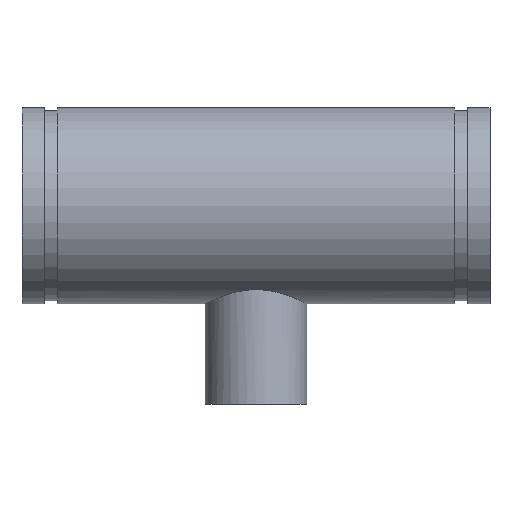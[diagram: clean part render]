
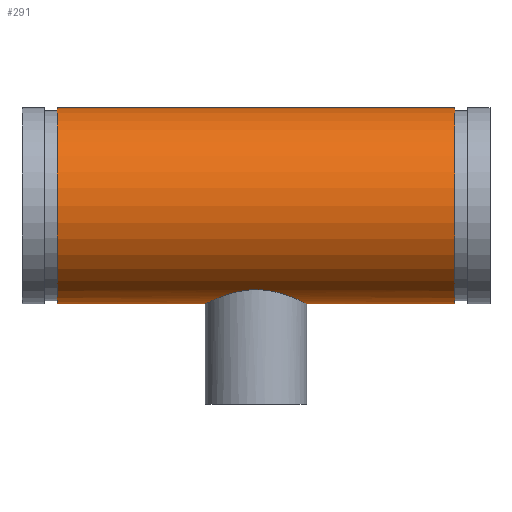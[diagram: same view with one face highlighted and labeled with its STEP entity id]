
A CAD part, top view. The second image highlights one B-rep face of the part: STEP entity #291.
In plain terms, the highlighted cylindrical face has radius 70.65 mm (diameter 141.3 mm), a full revolution.
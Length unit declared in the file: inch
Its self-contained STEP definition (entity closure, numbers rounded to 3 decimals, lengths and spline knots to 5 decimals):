
#45=B_SPLINE_CURVE_WITH_KNOTS('',3,(#511,#512,#513,#514,#515,#516,#517,
#518,#519,#520,#521,#522,#523,#524,#525,#526,#527,#528,#529,#530,#531,#532,
#533,#534,#535,#536,#537,#538,#539,#540,#541,#542,#543,#544,#545,#546,#547,
#548,#549,#550,#551,#552,#553,#554,#555,#556,#557,#558,#559,#560),
 .UNSPECIFIED.,.F.,.F.,(4,2,2,2,2,2,2,2,2,2,2,2,2,2,2,2,2,2,2,2,2,2,2,2,
4),(0.,0.70399,1.40798,2.11197,2.81596,
3.51772,4.21948,4.92124,5.62299,6.32475,
7.02651,7.72827,8.43002,9.13401,9.83801,
10.542,11.24599,11.94998,12.65397,13.35796,
14.06195,14.76371,15.46547,16.16722,16.86898),
 .UNSPECIFIED.);
#46=B_SPLINE_CURVE_WITH_KNOTS('',3,(#561,#562,#563,#564,#565,#566,#567,
#568,#569,#570,#571,#572,#573,#574,#575,#576,#577,#578),.UNSPECIFIED.,.F.,
 .F.,(4,2,2,2,2,2,2,2,4),(16.86898,17.57074,18.2725,
18.97425,19.67601,20.38,21.08399,21.78798,
22.49198),.UNSPECIFIED.);
#51=LINE('',#508,#59);
#59=VECTOR('',#410,2.7815);
#67=CYLINDRICAL_SURFACE('',#338,2.7815);
#77=FACE_BOUND('',#108,.T.);
#88=FACE_OUTER_BOUND('',#107,.T.);
#107=EDGE_LOOP('',(#221,#222,#223,#224));
#108=EDGE_LOOP('',(#225,#226));
#121=CIRCLE('',#321,2.7815);
#132=CIRCLE('',#337,2.7815);
#141=VERTEX_POINT('',#476);
#152=VERTEX_POINT('',#505);
#153=VERTEX_POINT('',#509);
#154=VERTEX_POINT('',#510);
#165=EDGE_CURVE('',#141,#141,#121,.T.);
#178=EDGE_CURVE('',#152,#152,#132,.T.);
#179=EDGE_CURVE('',#152,#141,#51,.T.);
#180=EDGE_CURVE('',#153,#154,#45,.T.);
#181=EDGE_CURVE('',#154,#153,#46,.T.);
#221=ORIENTED_EDGE('',*,*,#178,.T.);
#222=ORIENTED_EDGE('',*,*,#179,.T.);
#223=ORIENTED_EDGE('',*,*,#165,.T.);
#224=ORIENTED_EDGE('',*,*,#179,.F.);
#225=ORIENTED_EDGE('',*,*,#180,.F.);
#226=ORIENTED_EDGE('',*,*,#181,.F.);
#291=ADVANCED_FACE('',(#88,#77),#67,.T.);
#321=AXIS2_PLACEMENT_3D('',#477,#372,#373);
#337=AXIS2_PLACEMENT_3D('',#506,#406,#407);
#338=AXIS2_PLACEMENT_3D('',#507,#408,#409);
#372=DIRECTION('center_axis',(-1.,0.,0.));
#373=DIRECTION('ref_axis',(0.,-1.,0.));
#406=DIRECTION('center_axis',(1.,0.,0.));
#407=DIRECTION('ref_axis',(0.,-1.,0.));
#408=DIRECTION('center_axis',(-1.,0.,0.));
#409=DIRECTION('ref_axis',(0.,-1.,0.));
#410=DIRECTION('',(1.,0.,0.));
#476=CARTESIAN_POINT('',(5.63,2.7815,0.));
#477=CARTESIAN_POINT('Origin',(5.63,0.,0.));
#505=CARTESIAN_POINT('',(-5.63,2.7815,0.));
#506=CARTESIAN_POINT('Origin',(-5.63,0.,0.));
#507=CARTESIAN_POINT('Origin',(6.63,0.,0.));
#508=CARTESIAN_POINT('',(6.63,2.7815,0.));
#509=CARTESIAN_POINT('',(0.,-2.38125,-1.4375));
#510=CARTESIAN_POINT('',(-1.4375,-2.7815,0.));
#511=CARTESIAN_POINT('Ctrl Pts',(0.,-2.38125,-1.4375));
#512=CARTESIAN_POINT('Ctrl Pts',(0.09239,-2.38125,-1.4375));
#513=CARTESIAN_POINT('Ctrl Pts',(0.18718,-2.38678,-1.42845));
#514=CARTESIAN_POINT('Ctrl Pts',(0.3744,-2.40871,-1.39117));
#515=CARTESIAN_POINT('Ctrl Pts',(0.46684,-2.42506,-1.36294));
#516=CARTESIAN_POINT('Ctrl Pts',(0.64319,-2.46509,-1.28913));
#517=CARTESIAN_POINT('Ctrl Pts',(0.72726,-2.48874,-1.24349));
#518=CARTESIAN_POINT('Ctrl Pts',(0.88243,-2.53843,-1.13864));
#519=CARTESIAN_POINT('Ctrl Pts',(0.95352,-2.56441,-1.07941));
#520=CARTESIAN_POINT('Ctrl Pts',(1.07921,-2.61375,-0.95372));
#521=CARTESIAN_POINT('Ctrl Pts',(1.13841,-2.63896,-0.88273));
#522=CARTESIAN_POINT('Ctrl Pts',(1.24334,-2.68589,-0.72752));
#523=CARTESIAN_POINT('Ctrl Pts',(1.28908,-2.70759,-0.64331));
#524=CARTESIAN_POINT('Ctrl Pts',(1.36301,-2.74355,-0.46667));
#525=CARTESIAN_POINT('Ctrl Pts',(1.39125,-2.75784,-0.37408));
#526=CARTESIAN_POINT('Ctrl Pts',(1.42851,-2.77682,-0.18679));
#527=CARTESIAN_POINT('Ctrl Pts',(1.4375,-2.7815,-0.09209));
#528=CARTESIAN_POINT('Ctrl Pts',(1.4375,-2.7815,0.09209));
#529=CARTESIAN_POINT('Ctrl Pts',(1.42851,-2.77682,0.18679));
#530=CARTESIAN_POINT('Ctrl Pts',(1.39125,-2.75784,0.37408));
#531=CARTESIAN_POINT('Ctrl Pts',(1.36301,-2.74355,0.46667));
#532=CARTESIAN_POINT('Ctrl Pts',(1.28908,-2.70759,0.64331));
#533=CARTESIAN_POINT('Ctrl Pts',(1.24334,-2.68589,0.72752));
#534=CARTESIAN_POINT('Ctrl Pts',(1.13841,-2.63896,0.88273));
#535=CARTESIAN_POINT('Ctrl Pts',(1.07921,-2.61375,0.95372));
#536=CARTESIAN_POINT('Ctrl Pts',(0.95352,-2.56441,1.07941));
#537=CARTESIAN_POINT('Ctrl Pts',(0.88243,-2.53843,1.13864));
#538=CARTESIAN_POINT('Ctrl Pts',(0.72726,-2.48874,1.24349));
#539=CARTESIAN_POINT('Ctrl Pts',(0.64319,-2.46509,1.28913));
#540=CARTESIAN_POINT('Ctrl Pts',(0.46684,-2.42506,1.36294));
#541=CARTESIAN_POINT('Ctrl Pts',(0.3744,-2.40871,1.39117));
#542=CARTESIAN_POINT('Ctrl Pts',(0.18718,-2.38678,1.42845));
#543=CARTESIAN_POINT('Ctrl Pts',(0.09239,-2.38125,1.4375));
#544=CARTESIAN_POINT('Ctrl Pts',(-0.09239,-2.38125,
1.4375));
#545=CARTESIAN_POINT('Ctrl Pts',(-0.18718,-2.38678,1.42845));
#546=CARTESIAN_POINT('Ctrl Pts',(-0.3744,-2.40871,1.39117));
#547=CARTESIAN_POINT('Ctrl Pts',(-0.46684,-2.42506,1.36294));
#548=CARTESIAN_POINT('Ctrl Pts',(-0.64319,-2.46509,1.28913));
#549=CARTESIAN_POINT('Ctrl Pts',(-0.72726,-2.48874,1.24349));
#550=CARTESIAN_POINT('Ctrl Pts',(-0.88243,-2.53843,1.13864));
#551=CARTESIAN_POINT('Ctrl Pts',(-0.95352,-2.56441,1.07941));
#552=CARTESIAN_POINT('Ctrl Pts',(-1.07921,-2.61375,0.95372));
#553=CARTESIAN_POINT('Ctrl Pts',(-1.13841,-2.63896,0.88273));
#554=CARTESIAN_POINT('Ctrl Pts',(-1.24334,-2.68589,0.72752));
#555=CARTESIAN_POINT('Ctrl Pts',(-1.28908,-2.70759,0.64331));
#556=CARTESIAN_POINT('Ctrl Pts',(-1.36301,-2.74355,0.46667));
#557=CARTESIAN_POINT('Ctrl Pts',(-1.39125,-2.75784,0.37408));
#558=CARTESIAN_POINT('Ctrl Pts',(-1.42851,-2.77682,0.18679));
#559=CARTESIAN_POINT('Ctrl Pts',(-1.4375,-2.7815,0.09209));
#560=CARTESIAN_POINT('Ctrl Pts',(-1.4375,-2.7815,0.));
#561=CARTESIAN_POINT('Ctrl Pts',(-1.4375,-2.7815,0.));
#562=CARTESIAN_POINT('Ctrl Pts',(-1.4375,-2.7815,-0.09209));
#563=CARTESIAN_POINT('Ctrl Pts',(-1.42851,-2.77682,-0.18679));
#564=CARTESIAN_POINT('Ctrl Pts',(-1.39125,-2.75784,-0.37408));
#565=CARTESIAN_POINT('Ctrl Pts',(-1.36301,-2.74355,-0.46667));
#566=CARTESIAN_POINT('Ctrl Pts',(-1.28908,-2.70759,-0.64331));
#567=CARTESIAN_POINT('Ctrl Pts',(-1.24334,-2.68589,-0.72752));
#568=CARTESIAN_POINT('Ctrl Pts',(-1.13841,-2.63896,-0.88273));
#569=CARTESIAN_POINT('Ctrl Pts',(-1.07921,-2.61375,-0.95372));
#570=CARTESIAN_POINT('Ctrl Pts',(-0.95352,-2.56441,-1.07941));
#571=CARTESIAN_POINT('Ctrl Pts',(-0.88243,-2.53843,-1.13864));
#572=CARTESIAN_POINT('Ctrl Pts',(-0.72726,-2.48874,-1.24349));
#573=CARTESIAN_POINT('Ctrl Pts',(-0.64319,-2.46509,-1.28913));
#574=CARTESIAN_POINT('Ctrl Pts',(-0.46684,-2.42506,-1.36294));
#575=CARTESIAN_POINT('Ctrl Pts',(-0.3744,-2.40871,-1.39117));
#576=CARTESIAN_POINT('Ctrl Pts',(-0.18718,-2.38678,-1.42845));
#577=CARTESIAN_POINT('Ctrl Pts',(-0.09239,-2.38125,
-1.4375));
#578=CARTESIAN_POINT('Ctrl Pts',(0.,-2.38125,
-1.4375));
